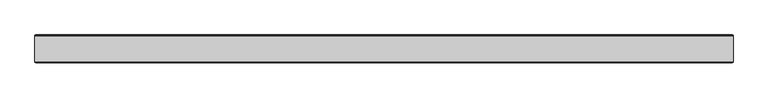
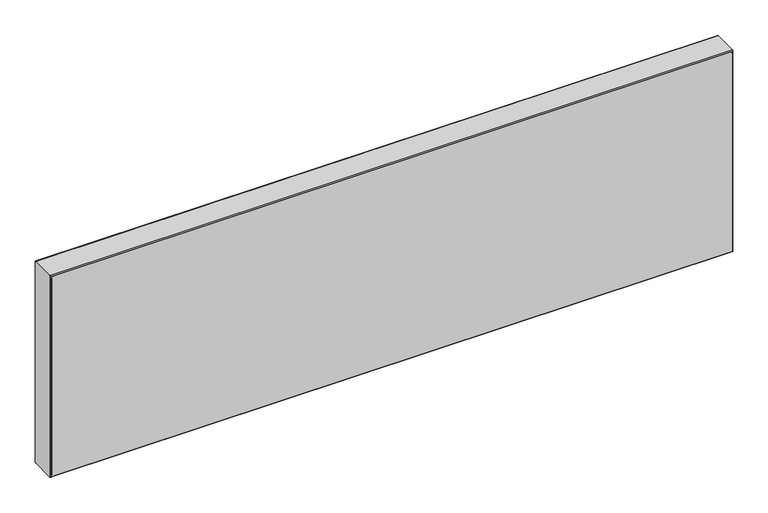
"""IFC4 building model written with IfcOpenShell, lengths in millimetres: proxy geometry, EVRA CV Д : 11-500-1600."""

import ifcopenshell
import ifcopenshell.guid

model = None  # the IFC model being written
_history = None  # IfcOwnerHistory: only IFC2X3 demands one
_inside = {}  # id of a spatial element -> (the spatial element, [elements in it])
_under = {}  # id of a project, library or spatial element -> (it, [spatial elements below it])
_declared = {}  # id of a project -> (the project, [libraries it declares])
_typed = {}  # id of a type object -> (the type object, [elements of that type])
_made_of = {}  # id of a material, layer set ... -> (it, [elements and type objects made of it])


def new_model(schema):
    """Start an empty IFC model of exactly this schema.

    Asked for "IFC4X3", IfcOpenShell would pick the latest addendum, in which some entities
    have other attributes; the version numbers below select the first issue.
    IFC2X3 requires an IfcOwnerHistory on every rooted entity: one is made here for all.
    """
    global model, _history
    if schema == "IFC4X3":
        model = ifcopenshell.file(schema_version=(4, 3, 0, 0))
    else:
        model = ifcopenshell.file(schema=schema)
    _inside.clear()
    _under.clear()
    _declared.clear()
    _typed.clear()
    _made_of.clear()
    _history = None
    if model.schema == "IFC2X3":
        org = make("IfcOrganization", Name="unknown")
        user = make(
            "IfcPersonAndOrganization",
            ThePerson=make("IfcPerson", FamilyName="unknown"),
            TheOrganization=org,
        )
        app = make(
            "IfcApplication",
            ApplicationDeveloper=org,
            Version="unknown",
            ApplicationFullName="unknown",
            ApplicationIdentifier="unknown",
        )
        _history = make(
            "IfcOwnerHistory",
            OwningUser=user,
            OwningApplication=app,
            ChangeAction="ADDED",
            CreationDate=0,
        )
    return model


def make(cls, **values):
    """One entity of the class cls with the attributes given. An attribute that is None is left unset."""
    return model.create_entity(
        cls, **{name: value for name, value in values.items() if value is not None}
    )


def rooted(cls, **values):
    """An entity with a GlobalId (a new one), such as an element, a storey or a relation."""
    return make(cls, GlobalId=ifcopenshell.guid.new(), OwnerHistory=_history, **values)


def si_unit(unit_type, name, prefix=None):
    """IfcSIUnit, for example si_unit("LENGTHUNIT", "METRE", prefix="MILLI")."""
    return make("IfcSIUnit", UnitType=unit_type, Prefix=prefix, Name=name)


def assignment(units):
    """IfcUnitAssignment: the units of a project."""
    return None if units is None else make("IfcUnitAssignment", Units=units)


def point(xyz):
    """IfcCartesianPoint."""
    return None if xyz is None else make("IfcCartesianPoint", Coordinates=xyz)


def direction(xyz):
    """IfcDirection."""
    return None if xyz is None else make("IfcDirection", DirectionRatios=xyz)


def frame(location, z_axis=None, x_axis=None):
    """IfcAxis2Placement3D, a coordinate frame: its origin and axes. An axis left out is left unset."""
    return make(
        "IfcAxis2Placement3D",
        Location=point(location),
        Axis=direction(z_axis),
        RefDirection=direction(x_axis),
    )


def frame_2d(location, x_axis=None):
    """IfcAxis2Placement2D, a coordinate frame in the plane: its origin and x axis."""
    return make(
        "IfcAxis2Placement2D", Location=point(location), RefDirection=direction(x_axis)
    )


def origin():
    """The frame at (0, 0, 0) with its axes left unset."""
    return frame((0.0, 0.0, 0.0))


def place(relative_to, where):
    """IfcLocalPlacement: puts the frame where relative to a parent placement (None: the world)."""
    return make(
        "IfcLocalPlacement", PlacementRelTo=relative_to, RelativePlacement=where
    )


def context(
    kind, dimensions, precision=None, world=None, true_north=None, identifier=None
):
    """IfcGeometricRepresentationContext, for example the 3D "Model" context."""
    return make(
        "IfcGeometricRepresentationContext",
        ContextIdentifier=identifier,
        ContextType=kind,
        CoordinateSpaceDimension=dimensions,
        Precision=precision,
        WorldCoordinateSystem=world,
        TrueNorth=true_north,
    )


def project(units=None, contexts=None):
    """IfcProject with its units and contexts."""
    return rooted(
        "IfcProject",
        Name="project",
        RepresentationContexts=contexts,
        UnitsInContext=assignment(units),
    )


def spatial(cls, under=None, at=None, **own):
    """A site, building, storey or space (cls), placed at a placement, below another one or the project."""
    s = rooted(cls, ObjectPlacement=at, **own)
    if under is not None:
        _under.setdefault(under.id(), (under, []))[1].append(s)
    return s


def polyline(points):
    """IfcPolyline through the points."""
    return make("IfcPolyline", Points=[point(p) for p in points])


def circle_curve(where, radius):
    """IfcCircle in the frame where."""
    return make("IfcCircle", Position=where, Radius=radius)


def trimmed(basis, trim1, trim2, sense, master):
    """IfcTrimmedCurve: the piece of a basis curve between two trims."""
    return make(
        "IfcTrimmedCurve",
        BasisCurve=basis,
        Trim1=trim1,
        Trim2=trim2,
        SenseAgreement=sense,
        MasterRepresentation=master,
    )


def segment(curve, same_sense, transition):
    """IfcCompositeCurveSegment."""
    return make(
        "IfcCompositeCurveSegment",
        Transition=transition,
        SameSense=same_sense,
        ParentCurve=curve,
    )


def composite_curve(segments, self_intersect=None):
    """IfcCompositeCurve: segments joined end to end."""
    return make("IfcCompositeCurve", Segments=segments, SelfIntersect=self_intersect)


def outline(outer, holes=None, kind="AREA"):
    """IfcArbitraryClosedProfileDef: a profile drawn as a closed curve; with holes, ...WithVoids."""
    if holes is None:
        return make("IfcArbitraryClosedProfileDef", ProfileType=kind, OuterCurve=outer)
    return make(
        "IfcArbitraryProfileDefWithVoids",
        ProfileType=kind,
        OuterCurve=outer,
        InnerCurves=holes,
    )


def extrude(swept, where, along, depth):
    """IfcExtrudedAreaSolid: the profile swept, set in the frame where, extruded along a direction by depth."""
    return make(
        "IfcExtrudedAreaSolid",
        SweptArea=swept,
        Position=where,
        ExtrudedDirection=direction(along),
        Depth=depth,
    )


def shape(context_of_items, identifier, shape_type, items):
    """IfcShapeRepresentation: the items that make up one representation, for example the "Body"."""
    return make(
        "IfcShapeRepresentation",
        ContextOfItems=context_of_items,
        RepresentationIdentifier=identifier,
        RepresentationType=shape_type,
        Items=items,
    )


def source(mapping_origin, context_of_items, identifier, shape_type, items):
    """IfcRepresentationMap: a shape defined once, which mapped items show again and again."""
    return make(
        "IfcRepresentationMap",
        MappingOrigin=mapping_origin,
        MappedRepresentation=shape(context_of_items, identifier, shape_type, items),
    )


def transform(
    local_origin,
    x_axis=None,
    y_axis=None,
    z_axis=None,
    scale=None,
    scale2=None,
    scale3=None,
    uniform=True,
):
    """IfcCartesianTransformationOperator3D, or its non-uniform kind. x_axis, y_axis, z_axis: its Axis1, 2, 3."""
    if uniform:
        return make(
            "IfcCartesianTransformationOperator3D",
            Axis1=direction(x_axis),
            Axis2=direction(y_axis),
            LocalOrigin=point(local_origin),
            Scale=scale,
            Axis3=direction(z_axis),
        )
    return make(
        "IfcCartesianTransformationOperator3DnonUniform",
        Axis1=direction(x_axis),
        Axis2=direction(y_axis),
        LocalOrigin=point(local_origin),
        Scale=scale,
        Axis3=direction(z_axis),
        Scale2=scale2,
        Scale3=scale3,
    )


def mapped(mapping_source, mapping_target):
    """IfcMappedItem: shows the shape of a source again, moved by a transform."""
    return make(
        "IfcMappedItem", MappingSource=mapping_source, MappingTarget=mapping_target
    )


def made_of(thing, what):
    """Note that an element or type object is made of a material, layer set ...; save() writes the relation."""
    if what is not None:
        _made_of.setdefault(what.id(), (what, []))[1].append(thing)
    return thing


def element(
    cls,
    number,
    at=None,
    inside=None,
    cuts=None,
    type_object=None,
    material=None,
    context=None,
    identifier="Body",
    shape_type=None,
    held_by="IfcProductDefinitionShape",
    body=None,
    shapes=None,
    **own,
):
    """One element of the class cls, such as IfcWall. Its Tag is "e" and its number.

    at: its placement. inside: the storey or other place that contains it. cuts: it is an
    opening in that element (IfcRelVoidsElement). A single representation is given by context,
    identifier, shape_type and body (its items); several are given by shapes. held_by: the class
    of the entity that holds the representations. save() writes the other relations.
    """
    e = rooted(cls, Tag="e%d" % number, ObjectPlacement=at, **own)
    if body is not None:
        shapes = [shape(context, identifier, shape_type, body)]
    if shapes is not None:
        e.Representation = make(held_by, Representations=shapes)
    if inside is not None:
        _inside.setdefault(inside.id(), (inside, []))[1].append(e)
    if cuts is not None:
        rooted(
            "IfcRelVoidsElement", RelatingBuildingElement=cuts, RelatedOpeningElement=e
        )
    if type_object is not None:
        _typed.setdefault(type_object.id(), (type_object, []))[1].append(e)
    return made_of(e, material)


def aggregate(whole, parts):
    """IfcRelAggregates: a whole, such as a stair, and the parts it consists of."""
    return rooted("IfcRelAggregates", RelatingObject=whole, RelatedObjects=parts)


def save(model, path):
    """Write the relations noted so far, then the file.

    IfcRelAggregates (storeys below a building ...), IfcRelContainedInSpatialStructure (elements
    in a storey), IfcRelDefinesByType, IfcRelAssociatesMaterial and IfcRelDeclares: one each for
    every whole, place, type object, material and project.
    """
    for whole, parts in _under.values():
        aggregate(whole, parts)
    for where, things in _inside.values():
        rooted(
            "IfcRelContainedInSpatialStructure",
            RelatedElements=things,
            RelatingStructure=where,
        )
    for kind, things in _typed.values():
        rooted("IfcRelDefinesByType", RelatedObjects=things, RelatingType=kind)
    for what, things in _made_of.values():
        rooted("IfcRelAssociatesMaterial", RelatedObjects=things, RelatingMaterial=what)
    for by, libraries in _declared.values():
        rooted("IfcRelDeclares", RelatingContext=by, RelatedDefinitions=libraries)
    model.write(path)


def mechanical_equipment_88dabea2(model_context):
    return source(origin(), model_context, "Body", "SweptSolid", [
        extrude(outline(composite_curve([segment(polyline([(598.0, 993.0), (598.0, -593.0)]), True, "CONTINUOUS"), segment(trimmed(circle_curve(frame_2d((593.0, -593.0)), 5.0), [point((598.0, -593.0))], [point((593.0, -598.0))], False, "CARTESIAN"), True, "CONTINUOUS"), segment(polyline([(593.0, -598.0), (107.0, -598.0)]), True, "CONTINUOUS"), segment(trimmed(circle_curve(frame_2d((107.0, -593.0)), 5.0), [point((107.0, -598.0))], [point((102.0, -593.0))], False, "CARTESIAN"), True, "CONTINUOUS"), segment(polyline([(102.0, -593.0), (102.0, 993.0)]), True, "CONTINUOUS"), segment(trimmed(circle_curve(frame_2d((107.0, 993.0)), 5.0), [point((102.0, 993.0))], [point((107.0, 998.0))], False, "CARTESIAN"), True, "CONTINUOUS"), segment(polyline([(107.0, 998.0), (593.0, 998.0)]), True, "CONTINUOUS"), segment(trimmed(circle_curve(frame_2d((593.0, 993.0)), 5.0), [point((593.0, 998.0))], [point((598.0, 993.0))], False, "CARTESIAN"), True, "CONTINUOUS")], self_intersect=False)), frame((0.0, 11.4631102, 0.0), z_axis=(0.0, 1.0, 0.0), x_axis=(0.0, 0.0, 1.0)), (0.0, 0.0, 1.0), 1.0),
        extrude(outline(composite_curve([segment(polyline([(598.0, 993.0), (598.0, -593.0)]), True, "CONTINUOUS"), segment(trimmed(circle_curve(frame_2d((593.0, -593.0)), 5.0), [point((598.0, -593.0))], [point((593.0, -598.0))], False, "CARTESIAN"), True, "CONTINUOUS"), segment(polyline([(593.0, -598.0), (107.0, -598.0)]), True, "CONTINUOUS"), segment(trimmed(circle_curve(frame_2d((107.0, -593.0)), 5.0), [point((107.0, -598.0))], [point((102.0, -593.0))], False, "CARTESIAN"), True, "CONTINUOUS"), segment(polyline([(102.0, -593.0), (102.0, 993.0)]), True, "CONTINUOUS"), segment(trimmed(circle_curve(frame_2d((107.0, 993.0)), 5.0), [point((102.0, 993.0))], [point((107.0, 998.0))], False, "CARTESIAN"), True, "CONTINUOUS"), segment(polyline([(107.0, 998.0), (593.0, 998.0)]), True, "CONTINUOUS"), segment(trimmed(circle_curve(frame_2d((593.0, 993.0)), 5.0), [point((593.0, 998.0))], [point((598.0, 993.0))], False, "CARTESIAN"), True, "CONTINUOUS")], self_intersect=False)), frame((0.0, -51.5368898, 0.0), z_axis=(0.0, 1.0, 0.0), x_axis=(0.0, 0.0, 1.0)), (0.0, 0.0, 1.0), 1.0),
        extrude(outline(composite_curve([segment(trimmed(circle_curve(frame_2d((9.4631102, 598.0)), 2.0), [point((9.4631102, 600.0))], [point((11.4631102, 598.0))], False, "CARTESIAN"), True, "CONTINUOUS"), segment(polyline([(11.4631102, 598.0), (11.4631102, 102.0)]), True, "CONTINUOUS"), segment(trimmed(circle_curve(frame_2d((9.4631102, 102.0)), 2.0), [point((11.4631102, 102.0))], [point((9.4631102, 100.0))], False, "CARTESIAN"), True, "CONTINUOUS"), segment(polyline([(9.4631102, 100.0), (-48.5368898, 100.0)]), True, "CONTINUOUS"), segment(trimmed(circle_curve(frame_2d((-48.5368898, 102.0)), 2.0), [point((-48.5368898, 100.0))], [point((-50.5368898, 102.0))], False, "CARTESIAN"), True, "CONTINUOUS"), segment(polyline([(-50.5368898, 102.0), (-50.5368898, 598.0)]), True, "CONTINUOUS"), segment(trimmed(circle_curve(frame_2d((-48.5368898, 598.0)), 2.0), [point((-50.5368898, 598.0))], [point((-48.5368898, 600.0))], False, "CARTESIAN"), True, "CONTINUOUS"), segment(polyline([(-48.5368898, 600.0), (9.4631102, 600.0)]), True, "CONTINUOUS")], self_intersect=False)), frame((-600.0, 0.0, 0.0), z_axis=(1.0, 0.0, 0.0), x_axis=(0.0, 1.0, 0.0)), (0.0, 0.0, 1.0), 1600.0),
    ])


if __name__ == "__main__":
    model = new_model("IFC4")
    model_context = context("Model", 3, world=origin())
    ifc_project = project(units=[si_unit("LENGTHUNIT", "METRE", prefix="MILLI")], contexts=[model_context])
    site = spatial("IfcSite", under=ifc_project)
    building = spatial("IfcBuilding", under=site)
    placement = place(None, origin())
    mechanical_equipment_shape = mechanical_equipment_88dabea2(model_context)
    element("IfcBuildingElementProxy", 1, Name="EVRA CV Д : 11-500-1600", ObjectType="EVRA CV Д : 11-500-1600", at=placement, inside=building, context=model_context, shape_type="MappedRepresentation", body=[
        mapped(mechanical_equipment_shape, transform((0.0, 0.0, 0.0), x_axis=(1.0, 0.0, 0.0), y_axis=(0.0, 1.0, 0.0), z_axis=(0.0, 0.0, 1.0))),
    ])
    save(model, "model.ifc")
